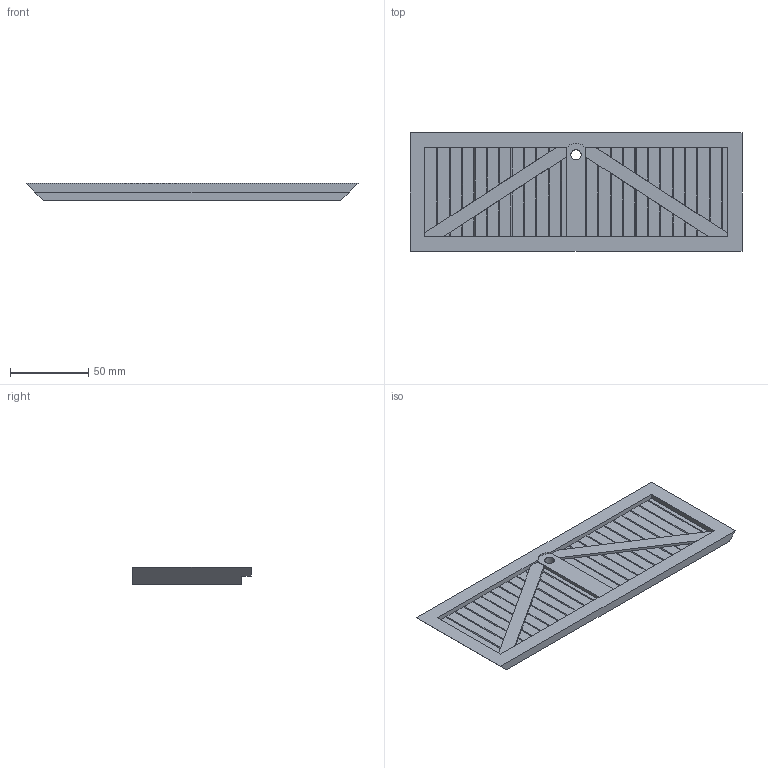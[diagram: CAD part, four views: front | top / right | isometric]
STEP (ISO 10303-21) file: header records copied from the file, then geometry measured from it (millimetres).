
FILE_DESCRIPTION (( 'STEP AP203' ), '1' );
FILE_NAME ('1x6 poplar Box Front.STEP', '2018-03-02T19:46:04', ( '' ), ( '' ), 'SwSTEP 2.0', 'SolidWorks 2015', '' );
FILE_SCHEMA (( 'CONFIG_CONTROL_DESIGN' ));
Length unit declared in the file: inch
Products named in the file (1): 1x6 poplar Box Front
Bounding box: 212.72 x 76.2 x 11.11 mm (x, y, z)
Volume: 131423.7 mm3; surface area: 41129.8 mm2
Topology: 1 solids, 1 shells, 155 faces, 453 edges, 302 vertices
Faces by surface type: plane 152, cylinder 3
Entity records: 5116 total; most frequent: CARTESIAN_POINT 911, ORIENTED_EDGE 906, DIRECTION 771, EDGE_CURVE 453, VECTOR 447, LINE 447, VERTEX_POINT 302, AXIS2_PLACEMENT_3D 162
